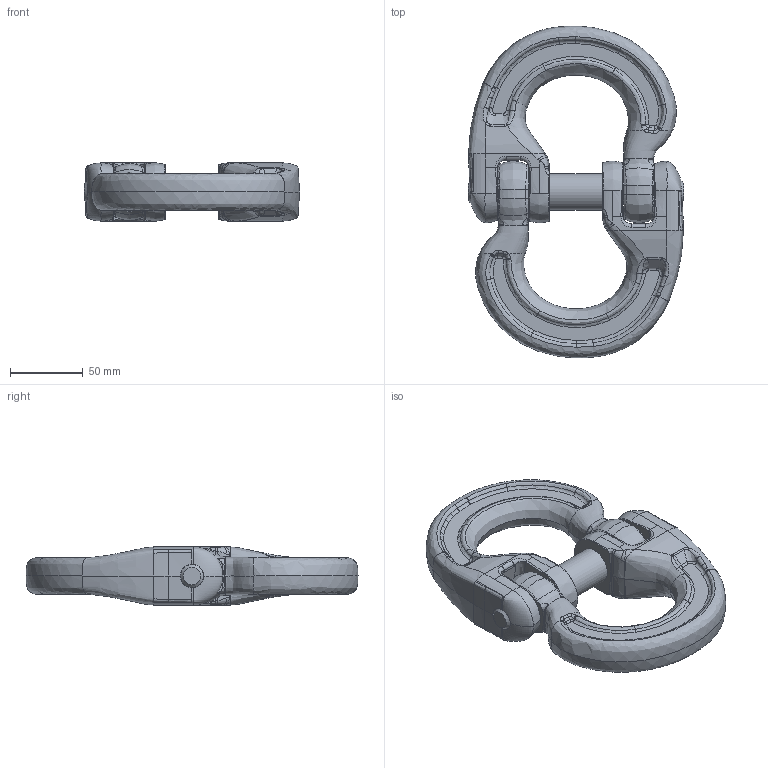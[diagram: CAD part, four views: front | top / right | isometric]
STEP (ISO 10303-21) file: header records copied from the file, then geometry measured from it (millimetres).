
FILE_DESCRIPTION(/* description */ (''),/* implementation_level */ '2;1');
FILE_NAME(/* name */ 'CW 22 Kundenmodell',/* time_stamp */ '2010-01-05T09:02:58+01:00',/* author */ (''),/* organization */ (''),/* preprocessor_version */ 'ST-DEVELOPER v9',/* originating_system */ 'UGS - NX 4.0',/* authorisation */ '');
FILE_SCHEMA (('AUTOMOTIVE_DESIGN { 1 0 10303 214 1 1 1 1 }'));
Products named in the file (1): rit3AA4rezi
Bounding box: 148 x 228.45 x 40.24 mm (x, y, z)
Volume: 504152.6 mm3; surface area: 92339.7 mm2
Topology: 4 solids, 4 shells, 491 faces, 1177 edges, 692 vertices
Faces by surface type: bspline 292, plane 54, torus 48, cylinder 47, cone 34, sphere 12, extrusion 4
Full cylindrical faces by diameter (mm): 16 x8, 25 x1
Entity records: 39096 total; most frequent: CARTESIAN_POINT 30246, ORIENTED_EDGE 2324, EDGE_CURVE 1162, DIRECTION 1110, B_SPLINE_CURVE_WITH_KNOTS 710, VERTEX_POINT 688, EDGE_LOOP 514, AXIS2_PLACEMENT_3D 498
